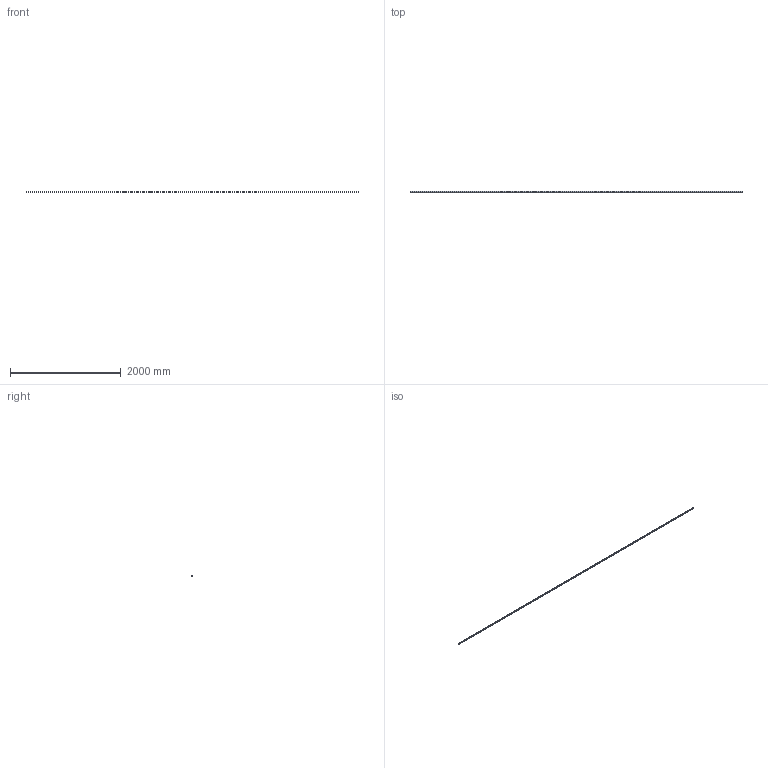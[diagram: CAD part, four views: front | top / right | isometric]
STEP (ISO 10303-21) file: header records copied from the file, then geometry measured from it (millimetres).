
FILE_DESCRIPTION (( 'STEP AP203' ), '1' );
FILE_NAME ('20100100_Profil 11x20 Nut 8_0.step', '2023-11-24T12:54:18', ( '' ), ( '' ), 'SwSTEP 2.0', 'SolidWorks 2021', '' );
FILE_SCHEMA (( 'CONFIG_CONTROL_DESIGN' ));
Length unit declared in the file: millimetre
Products named in the file (1): 20100100_Profil 11x20 Nut 8_0
Bounding box: 6000 x 20 x 11 mm (x, y, z)
Volume: 623043.7 mm3; surface area: 533438 mm2
Topology: 1 solids, 1 shells, 27 faces, 75 edges, 50 vertices
Faces by surface type: plane 23, cylinder 4
Entity records: 934 total; most frequent: CARTESIAN_POINT 153, ORIENTED_EDGE 150, DIRECTION 139, EDGE_CURVE 75, VECTOR 67, LINE 67, VERTEX_POINT 50, AXIS2_PLACEMENT_3D 36
